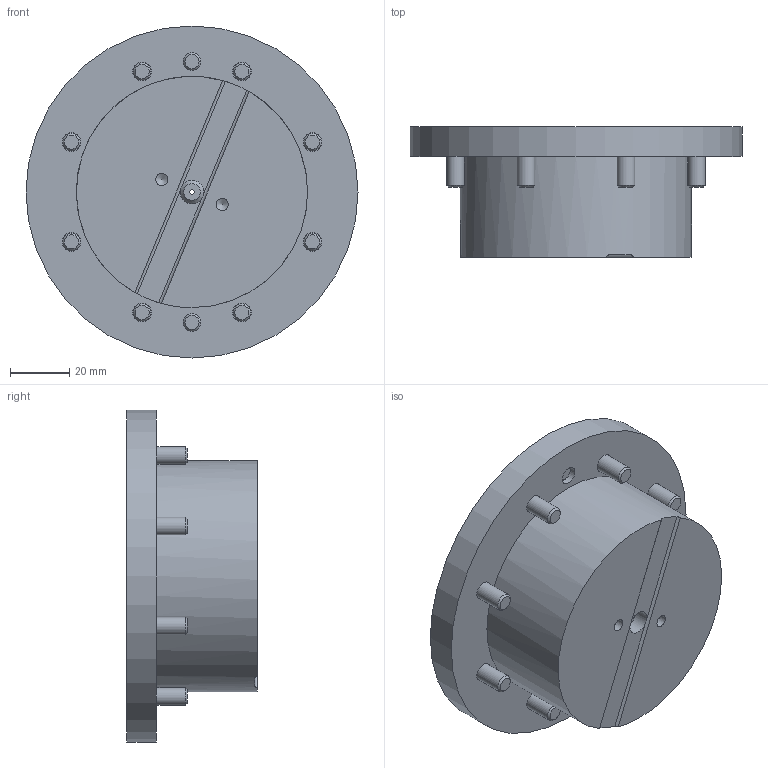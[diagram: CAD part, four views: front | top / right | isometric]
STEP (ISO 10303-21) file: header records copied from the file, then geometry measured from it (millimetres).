
FILE_DESCRIPTION( ( 'STEP AP203' ), '1' );
FILE_NAME( 'p:/temp/worker_3/temp/exporttempdir_5904_126_JorVq/format_0/AMF427971.stp', '2020-03-20T05:26:19', ( 'License CC BY-ND 4.0' ), ( 'CADENAS' ), ' ', 'PARTsolutions', ' ' );
FILE_SCHEMA( ( 'CONFIG_CONTROL_DESIGN' ) );
Length unit declared in the file: millimetre
Products named in the file (1): _AMF427971
Bounding box: 112 x 44 x 112 mm (x, y, z)
Volume: 232106.5 mm3; surface area: 41696.7 mm2
Topology: 1 solids, 1 shells, 180 faces, 374 edges, 247 vertices
Faces by surface type: plane 117, cylinder 43, cone 20
Full cylindrical faces by diameter (mm): 1.5 x1, 4.1 x2, 6 x10, 6.3 x8, 8 x1, 10 x8, 10.3 x8, 32 x1, 78 x1, 112 x1
Entity records: 4432 total; most frequent: DIRECTION 766, CARTESIAN_POINT 749, ORIENTED_EDGE 602, EDGE_CURVE 301, EDGE_LOOP 294, AXIS2_PLACEMENT_3D 290, VERTEX_POINT 237, FACE_OUTER_BOUND 221
